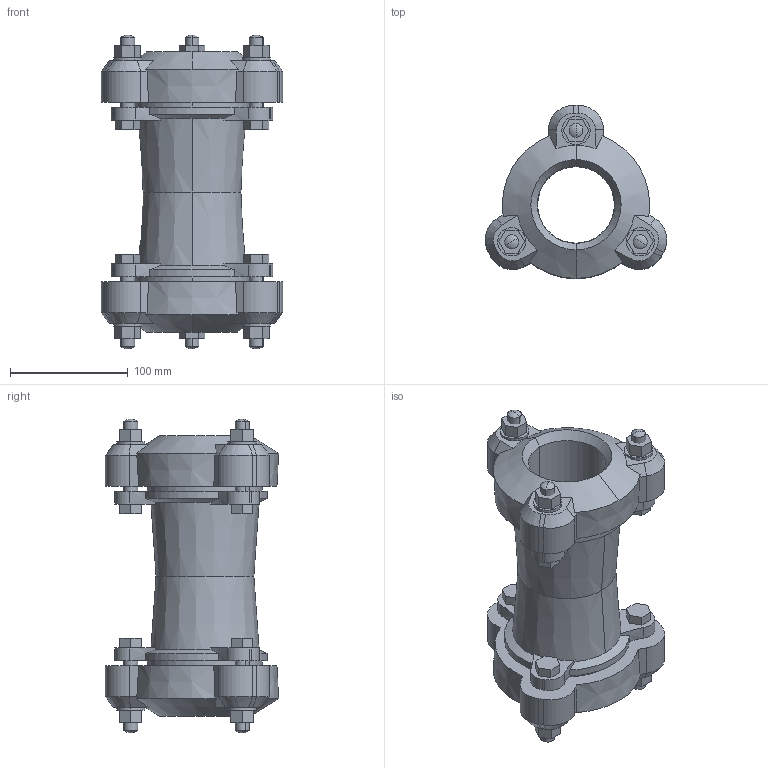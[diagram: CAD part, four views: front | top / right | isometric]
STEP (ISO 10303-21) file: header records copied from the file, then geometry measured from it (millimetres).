
FILE_DESCRIPTION((''),'2;1');
FILE_NAME('BIM_13198_1_ASM','2019-04-09T',('MReader'),(''),'CREO PARAMETRIC BY PTC INC, 2016130','CREO PARAMETRIC BY PTC INC, 2016130','');
FILE_SCHEMA(('CONFIG_CONTROL_DESIGN'));
Length unit declared in the file: millimetre
Products named in the file (3): BIM_12196_1; _BIM_13230_2; BIM_13198_1_ASM
Assembly tree (3 placements, depth 2):
  BIM_13198_1_ASM
    BIM_12196_1
    _BIM_13230_2  x2
Bounding box: 154.06 x 146.97 x 266 mm (x, y, z)
Volume: 1292226.4 mm3; surface area: 220722.2 mm2
Topology: 3 solids, 3 shells, 290 faces, 740 edges, 466 vertices
Faces by surface type: plane 148, cylinder 78, cone 52, sphere 12
Entity records: 6579 total; most frequent: CARTESIAN_POINT 1273, DIRECTION 1117, ORIENTED_EDGE 1076, EDGE_CURVE 538, AXIS2_PLACEMENT_3D 404, VERTEX_POINT 346, VECTOR 309, LINE 309
